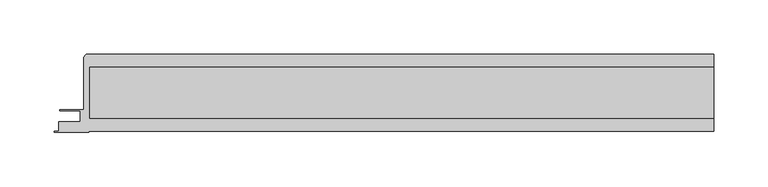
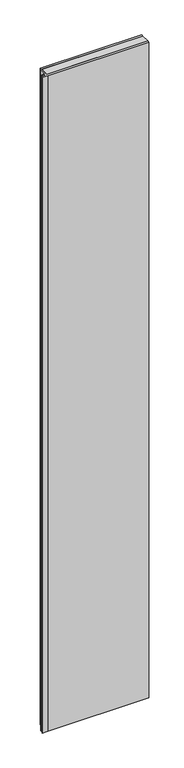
"""IFC4 building model written with IfcOpenShell, lengths in millimetres: plate geometry, Walls_External-Walls_Danpal_Danpatherm-K7-with-NM-Frame : Walls_External-Walls_Danpal_Danpatherm-K7-with-NM-Frame."""

from ifc_helpers import new_model, si_unit, point, frame, frame_2d, origin, place, context, project, spatial, polyline, circle_curve, trimmed, segment, composite_curve, outline, extrude, source, transform, mapped, element, save


def plate_47ad7690(model_context):
    return source(origin(), model_context, "Body", "SweptSolid", [
        extrude(outline(polyline([(-285.908915, 60.3432727), (291.5052939, 60.3432727), (291.5052939, 12.7999917), (-285.908915, 12.7999917), (-285.908915, 60.3432727)])), frame((0.0, 0.0, -22.0), z_axis=(0.0, 0.0, 1.0), x_axis=(1.0, 0.0, 0.0)), (0.0, 0.0, 1.0), 3970.063098),
        extrude(outline(composite_curve([segment(polyline([(-287.662385, 72.343285), (291.5052939, 72.343285), (291.5052939, 60.3432727), (-285.908915, 60.3432727), (-285.908915, 12.7999917), (291.5052939, 12.7999917), (291.5052939, 0.8), (-287.2482853, 0.8), (-287.2482853, 0.0), (-319.1482853, 0.0), (-319.1482853, 0.8), (-314.9482853, 0.8), (-314.9482853, 9.7656785), (-295.1185255, 9.7656785), (-295.1185255, 19.6715177), (-314.0746712, 19.6715177), (-314.0746712, 20.9715623), (-291.5052939, 20.9715623), (-291.5052939, 68.5003761)]), True, "CONTINUOUS"), segment(trimmed(circle_curve(frame_2d((-287.662385, 68.5003761)), 3.8429089), [point((-291.5052939, 68.5003761))], [point((-287.662385, 72.343285))], False, "CARTESIAN"), True, "CONTINUOUS")], self_intersect=False)), frame((0.0, 0.0, -22.0), z_axis=(0.0, 0.0, 1.0), x_axis=(1.0, 0.0, 0.0)), (0.0, 0.0, 1.0), 3970.063098),
    ])


if __name__ == "__main__":
    model = new_model("IFC4")
    model_context = context("Model", 3, world=origin())
    ifc_project = project(units=[si_unit("LENGTHUNIT", "METRE", prefix="MILLI")], contexts=[model_context])
    site = spatial("IfcSite", under=ifc_project)
    building = spatial("IfcBuilding", under=site)
    placement = place(None, origin())
    plate_shape = plate_47ad7690(model_context)
    element("IfcPlate", 1, ObjectType="Walls_External-Walls_Danpal_Danpatherm-K7-with-NM-Frame : Walls_External-Walls_Danpal_Danpatherm-K7-with-NM-Frame", at=placement, inside=building, context=model_context, shape_type="MappedRepresentation", body=[
        mapped(plate_shape, transform((0.0, 0.0, 0.0), x_axis=(1.0, 0.0, 0.0), y_axis=(0.0, 1.0, 0.0), z_axis=(0.0, 0.0, 1.0))),
    ])
    save(model, "model.ifc")
